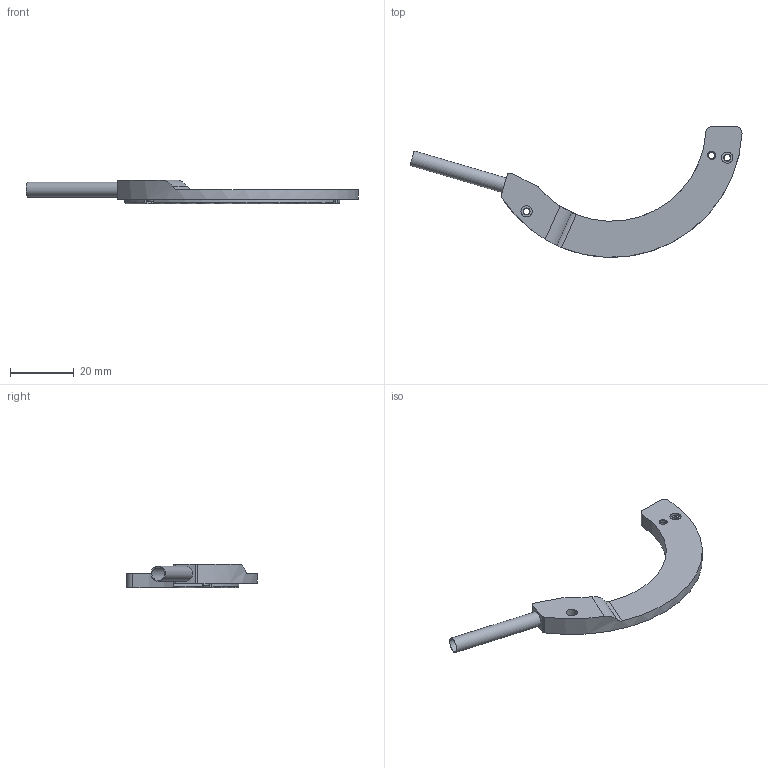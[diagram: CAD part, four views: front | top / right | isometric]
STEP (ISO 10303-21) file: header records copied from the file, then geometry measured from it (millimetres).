
FILE_DESCRIPTION(/* description */ ('QTR DHM'),/* implementation_level */ '2;1');
FILE_NAME(/* name */ 'DIGITAL HALL MODULE QTR 105',/* time_stamp */ '2019-05-17T10:14:52+02:00',/* author */ ('Tecnotion'),/* organization */ ('Tecnotion'),/* preprocessor_version */ 'ST-DEVELOPER v16.7',/* originating_system */ 'DEX',/* authorisation */ $);
FILE_SCHEMA (('AUTOMOTIVE_DESIGN {1 0 10303 214 3 1 1}'));
Length unit declared in the file: millimetre
Products named in the file (3): 1082331_190502; Resin QTR DHM 105_190325; 1081344_190205
Assembly tree (2 placements, depth 2):
  1082331_190502
    Resin QTR DHM 105_190325
    1081344_190205
Bounding box: 103.79 x 40.9 x 7.5 mm (x, y, z)
Volume: 5295.7 mm3; surface area: 6487.7 mm2
Topology: 93 solids, 93 shells, 603 faces, 1227 edges, 821 vertices
Faces by surface type: plane 552, cylinder 48, torus 3
Full cylindrical faces by diameter (mm): 1 x6, 2 x4, 2.2 x2, 2.3 x2, 2.5 x1, 2.8 x2, 3.5 x2, 4.3 x1, 4.35 x2, 4.7 x1
Entity records: 16118 total; most frequent: CARTESIAN_POINT 2650, DIRECTION 2495, ORIENTED_EDGE 2390, EDGE_CURVE 1195, LINE 1087, VECTOR 1087, VERTEX_POINT 812, AXIS2_PLACEMENT_3D 704
